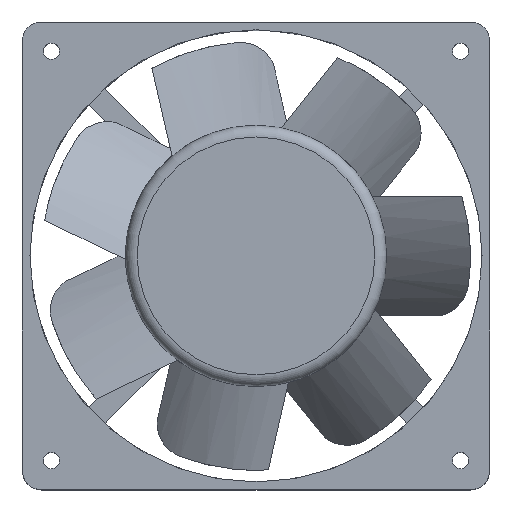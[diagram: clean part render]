
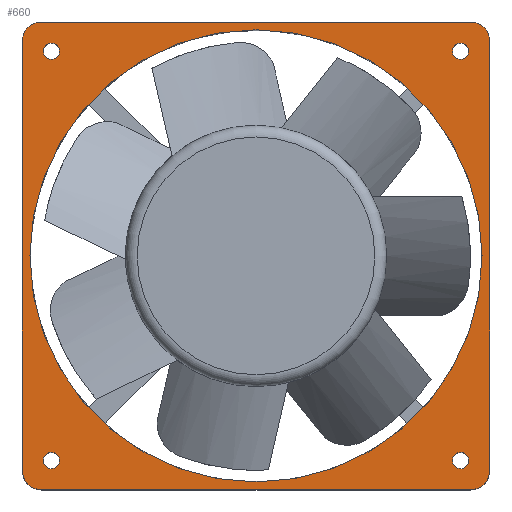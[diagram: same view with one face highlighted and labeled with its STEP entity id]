
A CAD part, top view. The second image highlights one B-rep face of the part: STEP entity #660.
In plain terms, the highlighted planar face has unit normal (0, 0, 1).
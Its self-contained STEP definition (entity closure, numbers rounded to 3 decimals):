
#660=ADVANCED_FACE('',(#1555,#1557,#1559,#1561,#1563,#1565),#1567,.T.);
#1555=FACE_BOUND('',#1556,.T.);
#1556=EDGE_LOOP('',(#2275,#2276,#2277,#2278,#2279,#2280,#2281,#2282));
#1557=FACE_BOUND('',#1558,.T.);
#1558=EDGE_LOOP('',(#2283));
#1559=FACE_BOUND('',#1560,.T.);
#1560=EDGE_LOOP('',(#2284));
#1561=FACE_BOUND('',#1562,.T.);
#1562=EDGE_LOOP('',(#2285));
#1563=FACE_BOUND('',#1564,.T.);
#1564=EDGE_LOOP('',(#2286));
#1565=FACE_BOUND('',#1566,.T.);
#1566=EDGE_LOOP('',(#2287));
#1567=PLANE('',#1568);
#1568=AXIS2_PLACEMENT_3D('',#1569,#1570,#1571);
#1569=CARTESIAN_POINT('',(0.,0.,38.8));
#1570=DIRECTION('',(0.,0.,1.));
#1571=DIRECTION('',(1.,0.,0.));
#2275=ORIENTED_EDGE('',*,*,#2652,.T.);
#2276=ORIENTED_EDGE('',*,*,#2653,.T.);
#2277=ORIENTED_EDGE('',*,*,#2654,.T.);
#2278=ORIENTED_EDGE('',*,*,#2655,.T.);
#2279=ORIENTED_EDGE('',*,*,#2656,.T.);
#2280=ORIENTED_EDGE('',*,*,#2657,.T.);
#2281=ORIENTED_EDGE('',*,*,#2658,.T.);
#2282=ORIENTED_EDGE('',*,*,#2659,.T.);
#2283=ORIENTED_EDGE('',*,*,#2631,.T.);
#2284=ORIENTED_EDGE('',*,*,#2660,.T.);
#2285=ORIENTED_EDGE('',*,*,#2661,.T.);
#2286=ORIENTED_EDGE('',*,*,#2662,.T.);
#2287=ORIENTED_EDGE('',*,*,#2663,.T.);
#2631=EDGE_CURVE('',#3037,#3037,#3038,.F.);
#2652=EDGE_CURVE('',#3077,#3078,#3079,.T.);
#2653=EDGE_CURVE('',#3078,#3080,#3081,.T.);
#2654=EDGE_CURVE('',#3080,#3082,#3083,.T.);
#2655=EDGE_CURVE('',#3082,#3084,#3085,.T.);
#2656=EDGE_CURVE('',#3084,#3086,#3087,.T.);
#2657=EDGE_CURVE('',#3086,#3088,#3089,.T.);
#2658=EDGE_CURVE('',#3088,#3090,#3091,.T.);
#2659=EDGE_CURVE('',#3090,#3077,#3092,.T.);
#2660=EDGE_CURVE('',#3093,#3093,#3094,.F.);
#2661=EDGE_CURVE('',#3095,#3095,#3096,.F.);
#2662=EDGE_CURVE('',#3097,#3097,#3098,.F.);
#2663=EDGE_CURVE('',#3099,#3099,#3100,.F.);
#3037=VERTEX_POINT('',#6333);
#3038=CIRCLE('',#6334,58.);
#3077=VERTEX_POINT('',#6420);
#3078=VERTEX_POINT('',#6421);
#3079=LINE('',#6422,#6423);
#3080=VERTEX_POINT('',#6425);
#3081=CIRCLE('',#6426,5.);
#3082=VERTEX_POINT('',#6430);
#3083=LINE('',#6431,#6432);
#3084=VERTEX_POINT('',#6434);
#3085=CIRCLE('',#6435,5.);
#3086=VERTEX_POINT('',#6439);
#3087=LINE('',#6440,#6441);
#3088=VERTEX_POINT('',#6443);
#3089=CIRCLE('',#6444,5.);
#3090=VERTEX_POINT('',#6448);
#3091=LINE('',#6449,#6450);
#3092=CIRCLE('',#6452,5.);
#3093=VERTEX_POINT('',#6456);
#3094=CIRCLE('',#6457,2.1);
#3095=VERTEX_POINT('',#6461);
#3096=CIRCLE('',#6462,2.1);
#3097=VERTEX_POINT('',#6466);
#3098=CIRCLE('',#6467,2.1);
#3099=VERTEX_POINT('',#6471);
#3100=CIRCLE('',#6472,2.1);
#6333=CARTESIAN_POINT('',(58.,0.,38.8));
#6334=AXIS2_PLACEMENT_3D('',#6335,#6336,#6337);
#6335=CARTESIAN_POINT('',(0.,0.,38.8));
#6336=DIRECTION('',(0.,0.,1.));
#6337=DIRECTION('',(1.,0.,0.));
#6420=CARTESIAN_POINT('',(55.,60.,38.8));
#6421=CARTESIAN_POINT('',(-55.,60.,38.8));
#6422=CARTESIAN_POINT('',(55.,60.,38.8));
#6423=VECTOR('',#6424,1.);
#6424=DIRECTION('',(-1.,0.,0.));
#6425=CARTESIAN_POINT('',(-60.,55.,38.8));
#6426=AXIS2_PLACEMENT_3D('',#6427,#6428,#6429);
#6427=CARTESIAN_POINT('',(-55.,55.,38.8));
#6428=DIRECTION('',(0.,0.,1.));
#6429=DIRECTION('',(0.,1.,0.));
#6430=CARTESIAN_POINT('',(-60.,-55.,38.8));
#6431=CARTESIAN_POINT('',(-60.,55.,38.8));
#6432=VECTOR('',#6433,1.);
#6433=DIRECTION('',(0.,-1.,0.));
#6434=CARTESIAN_POINT('',(-55.,-60.,38.8));
#6435=AXIS2_PLACEMENT_3D('',#6436,#6437,#6438);
#6436=CARTESIAN_POINT('',(-55.,-55.,38.8));
#6437=DIRECTION('',(0.,0.,1.));
#6438=DIRECTION('',(-1.,0.,0.));
#6439=CARTESIAN_POINT('',(55.,-60.,38.8));
#6440=CARTESIAN_POINT('',(-55.,-60.,38.8));
#6441=VECTOR('',#6442,1.);
#6442=DIRECTION('',(1.,0.,0.));
#6443=CARTESIAN_POINT('',(60.,-55.,38.8));
#6444=AXIS2_PLACEMENT_3D('',#6445,#6446,#6447);
#6445=CARTESIAN_POINT('',(55.,-55.,38.8));
#6446=DIRECTION('',(0.,0.,1.));
#6447=DIRECTION('',(0.,-1.,0.));
#6448=CARTESIAN_POINT('',(60.,55.,38.8));
#6449=CARTESIAN_POINT('',(60.,-55.,38.8));
#6450=VECTOR('',#6451,1.);
#6451=DIRECTION('',(0.,1.,0.));
#6452=AXIS2_PLACEMENT_3D('',#6453,#6454,#6455);
#6453=CARTESIAN_POINT('',(55.,55.,38.8));
#6454=DIRECTION('',(0.,0.,1.));
#6455=DIRECTION('',(1.,0.,0.));
#6456=CARTESIAN_POINT('',(-50.4,52.5,38.8));
#6457=AXIS2_PLACEMENT_3D('',#6458,#6459,#6460);
#6458=CARTESIAN_POINT('',(-52.5,52.5,38.8));
#6459=DIRECTION('',(0.,0.,1.));
#6460=DIRECTION('',(1.,0.,0.));
#6461=CARTESIAN_POINT('',(54.6,52.5,38.8));
#6462=AXIS2_PLACEMENT_3D('',#6463,#6464,#6465);
#6463=CARTESIAN_POINT('',(52.5,52.5,38.8));
#6464=DIRECTION('',(0.,0.,1.));
#6465=DIRECTION('',(1.,0.,0.));
#6466=CARTESIAN_POINT('',(54.6,-52.5,38.8));
#6467=AXIS2_PLACEMENT_3D('',#6468,#6469,#6470);
#6468=CARTESIAN_POINT('',(52.5,-52.5,38.8));
#6469=DIRECTION('',(0.,0.,1.));
#6470=DIRECTION('',(1.,0.,0.));
#6471=CARTESIAN_POINT('',(-50.4,-52.5,38.8));
#6472=AXIS2_PLACEMENT_3D('',#6473,#6474,#6475);
#6473=CARTESIAN_POINT('',(-52.5,-52.5,38.8));
#6474=DIRECTION('',(0.,0.,1.));
#6475=DIRECTION('',(1.,0.,0.));
